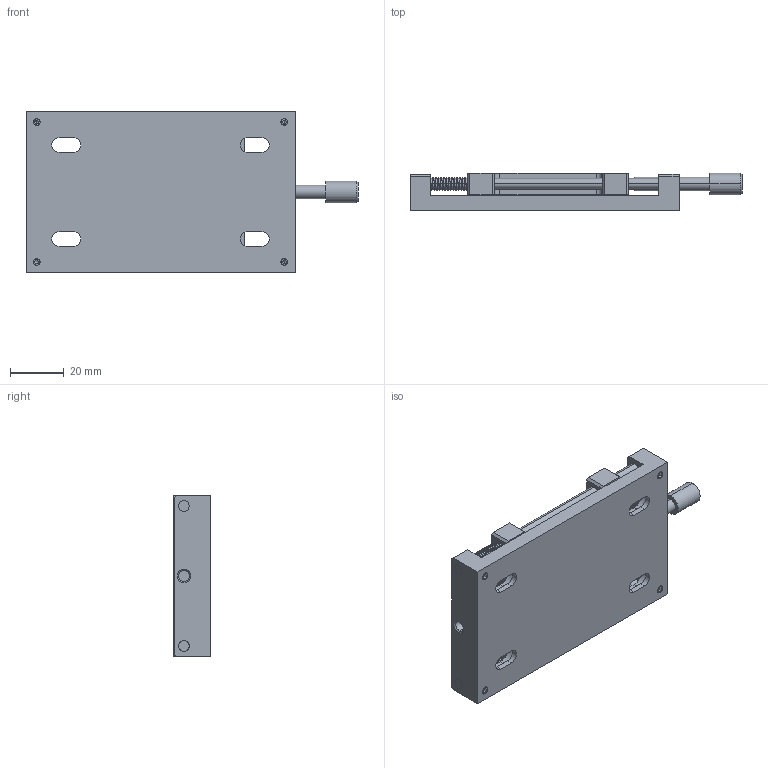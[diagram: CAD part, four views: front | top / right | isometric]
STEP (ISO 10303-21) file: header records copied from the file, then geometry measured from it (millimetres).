
FILE_DESCRIPTION (( 'STEP AP203' ), '1' );
FILE_NAME ('BHJ60.STEP', '2024-02-28T02:22:15', ( 'China' ), ( 'Microsoft' ), 'SwSTEP 2.0', 'SolidWorks 2024', '' );
FILE_SCHEMA (( 'CONFIG_CONTROL_DESIGN' ));
Length unit declared in the file: millimetre
Products named in the file (1): BHJ60
Bounding box: 123.39 x 14 x 60 mm (x, y, z)
Volume: 64010.6 mm3; surface area: 29896.3 mm2
Topology: 11 solids, 11 shells, 272 faces, 674 edges, 418 vertices
Faces by surface type: plane 130, cylinder 78, cone 60, bspline 4
Entity records: 18517 total; most frequent: CARTESIAN_POINT 11813, DIRECTION 1426, ORIENTED_EDGE 1332, EDGE_CURVE 666, AXIS2_PLACEMENT_3D 511, VERTEX_POINT 418, LINE 404, VECTOR 404
